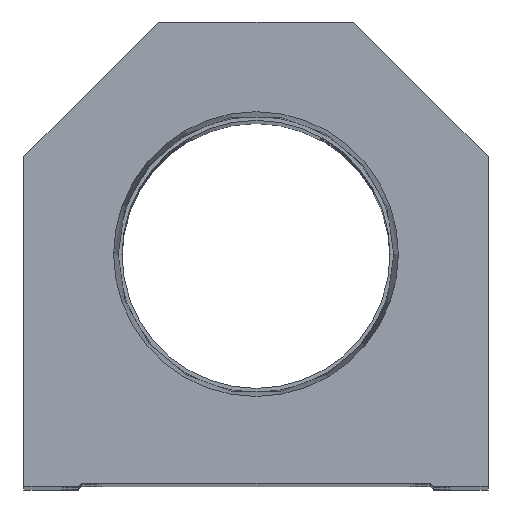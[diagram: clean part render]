
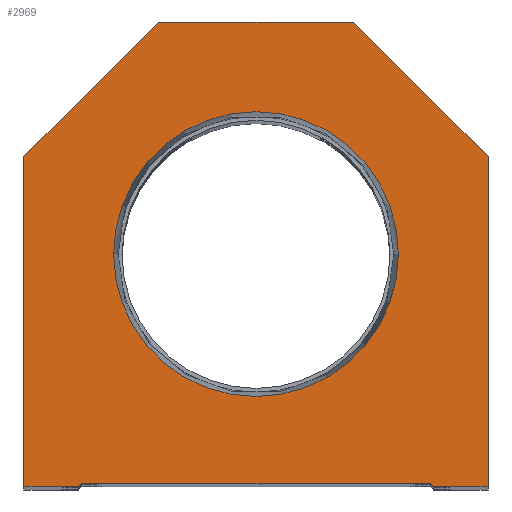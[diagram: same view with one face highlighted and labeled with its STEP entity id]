
A CAD part, top view. The second image highlights one B-rep face of the part: STEP entity #2969.
In plain terms, the highlighted planar face has unit normal (0, 0, 1).
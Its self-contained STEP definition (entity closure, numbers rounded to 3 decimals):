
#30 = LINE ( 'NONE', #10381, #3971 ) ;
#39 = ORIENTED_EDGE ( 'NONE', *, *, #14454, .T. ) ;
#549 = VERTEX_POINT ( 'NONE', #4935 ) ;
#564 = VECTOR ( 'NONE', #16138, 1000. ) ;
#679 = VECTOR ( 'NONE', #19218, 1000. ) ;
#684 = CARTESIAN_POINT ( 'NONE',  ( -14.55, 14.55, 0. ) ) ;
#713 = DIRECTION ( 'NONE',  ( 0., 1., 0. ) ) ;
#734 = AXIS2_PLACEMENT_3D ( 'NONE', #14796, #13259, #19179 ) ;
#1004 = LINE ( 'NONE', #13212, #14033 ) ;
#1402 = CARTESIAN_POINT ( 'NONE',  ( -38.1, 0., 0. ) ) ;
#1514 = VERTEX_POINT ( 'NONE', #9733 ) ;
#1742 = VERTEX_POINT ( 'NONE', #8936 ) ;
#1792 = VERTEX_POINT ( 'NONE', #4339 ) ;
#2098 = VERTEX_POINT ( 'NONE', #17908 ) ;
#2747 = DIRECTION ( 'NONE',  ( 1., 0., 0. ) ) ;
#2968 = CARTESIAN_POINT ( 'NONE',  ( 38.1, 0., 0. ) ) ;
#2969 = ADVANCED_FACE ( 'NONE', ( #18539, #5925 ), #16920, .T. ) ;
#3460 = ORIENTED_EDGE ( 'NONE', *, *, #7909, .T. ) ;
#3571 = CARTESIAN_POINT ( 'NONE',  ( 0., 38.1, 0. ) ) ;
#3606 = EDGE_LOOP ( 'NONE', ( #3460, #39, #9575, #8946, #3985, #8188, #18843, #8030, #16763, #9162 ) ) ;
#3971 = VECTOR ( 'NONE', #10496, 1000. ) ;
#3985 = ORIENTED_EDGE ( 'NONE', *, *, #10931, .T. ) ;
#4339 = CARTESIAN_POINT ( 'NONE',  ( 23.374, 38.1, 0. ) ) ;
#4935 = CARTESIAN_POINT ( 'NONE',  ( -16., 76.2, 0. ) ) ;
#4971 = DIRECTION ( 'NONE',  ( 1., 0., 0. ) ) ;
#4985 = EDGE_CURVE ( 'NONE', #1792, #1742, #12021, .T. ) ;
#5153 = LINE ( 'NONE', #11322, #18429 ) ;
#5289 = CARTESIAN_POINT ( 'NONE',  ( 28.6, 0.5, 0. ) ) ;
#5379 = VERTEX_POINT ( 'NONE', #19522 ) ;
#5666 = CARTESIAN_POINT ( 'NONE',  ( 38.1, 54.1, 0. ) ) ;
#5925 = FACE_OUTER_BOUND ( 'NONE', #3606, .T. ) ;
#5944 = DIRECTION ( 'NONE',  ( -1., 0., 0. ) ) ;
#6492 = EDGE_CURVE ( 'NONE', #16019, #549, #7393, .T. ) ;
#7201 = AXIS2_PLACEMENT_3D ( 'NONE', #3571, #19253, #17845 ) ;
#7255 = EDGE_CURVE ( 'NONE', #1514, #8970, #9829, .T. ) ;
#7393 = LINE ( 'NONE', #11820, #17652 ) ;
#7909 = EDGE_CURVE ( 'NONE', #8970, #2098, #30, .T. ) ;
#8030 = ORIENTED_EDGE ( 'NONE', *, *, #6492, .T. ) ;
#8188 = ORIENTED_EDGE ( 'NONE', *, *, #11920, .T. ) ;
#8702 = EDGE_CURVE ( 'NONE', #11845, #5379, #9734, .T. ) ;
#8936 = CARTESIAN_POINT ( 'NONE',  ( -23.374, 38.1, 0. ) ) ;
#8946 = ORIENTED_EDGE ( 'NONE', *, *, #8702, .T. ) ;
#8970 = VERTEX_POINT ( 'NONE', #1402 ) ;
#9162 = ORIENTED_EDGE ( 'NONE', *, *, #7255, .T. ) ;
#9575 = ORIENTED_EDGE ( 'NONE', *, *, #14345, .T. ) ;
#9733 = CARTESIAN_POINT ( 'NONE',  ( -38.1, 54.1, 0. ) ) ;
#9734 = LINE ( 'NONE', #17715, #19297 ) ;
#9791 = LINE ( 'NONE', #17476, #564 ) ;
#9815 = DIRECTION ( 'NONE',  ( -0.707, -0.707, 0. ) ) ;
#9829 = LINE ( 'NONE', #16078, #18628 ) ;
#9942 = LINE ( 'NONE', #11180, #679 ) ;
#10381 = CARTESIAN_POINT ( 'NONE',  ( -28.6, 0., 0. ) ) ;
#10496 = DIRECTION ( 'NONE',  ( 1., 0., 0. ) ) ;
#10931 = EDGE_CURVE ( 'NONE', #5379, #17417, #9942, .T. ) ;
#11180 = CARTESIAN_POINT ( 'NONE',  ( 28.6, 0., 0. ) ) ;
#11292 = ORIENTED_EDGE ( 'NONE', *, *, #4985, .F. ) ;
#11322 = CARTESIAN_POINT ( 'NONE',  ( -38.1, 54.1, 0. ) ) ;
#11330 = LINE ( 'NONE', #684, #14646 ) ;
#11417 = VERTEX_POINT ( 'NONE', #19433 ) ;
#11820 = CARTESIAN_POINT ( 'NONE',  ( 16., 76.2, 0. ) ) ;
#11845 = VERTEX_POINT ( 'NONE', #5289 ) ;
#11898 = DIRECTION ( 'NONE',  ( 0., 0., 1. ) ) ;
#11920 = EDGE_CURVE ( 'NONE', #17417, #15492, #1004, .T. ) ;
#12004 = EDGE_CURVE ( 'NONE', #1742, #1792, #18297, .T. ) ;
#12021 = CIRCLE ( 'NONE', #7201, 23.374 ) ;
#12522 = EDGE_LOOP ( 'NONE', ( #11292, #13984 ) ) ;
#13212 = CARTESIAN_POINT ( 'NONE',  ( 38.1, 0., 0. ) ) ;
#13259 = DIRECTION ( 'NONE',  ( 0., 0., 1. ) ) ;
#13802 = CARTESIAN_POINT ( 'NONE',  ( 16., 76.2, 0. ) ) ;
#13837 = CARTESIAN_POINT ( 'NONE',  ( 0., 0., 0. ) ) ;
#13984 = ORIENTED_EDGE ( 'NONE', *, *, #12004, .F. ) ;
#14033 = VECTOR ( 'NONE', #713, 1000. ) ;
#14345 = EDGE_CURVE ( 'NONE', #11417, #11845, #15655, .T. ) ;
#14454 = EDGE_CURVE ( 'NONE', #2098, #11417, #11330, .T. ) ;
#14519 = DIRECTION ( 'NONE',  ( 0., -1., 0. ) ) ;
#14646 = VECTOR ( 'NONE', #16074, 1000. ) ;
#14796 = CARTESIAN_POINT ( 'NONE',  ( 0., 38.1, 0. ) ) ;
#15492 = VERTEX_POINT ( 'NONE', #5666 ) ;
#15655 = LINE ( 'NONE', #17206, #18581 ) ;
#15976 = DIRECTION ( 'NONE',  ( 0.707, -0.707, 0. ) ) ;
#16019 = VERTEX_POINT ( 'NONE', #13802 ) ;
#16074 = DIRECTION ( 'NONE',  ( 0.707, 0.707, 0. ) ) ;
#16078 = CARTESIAN_POINT ( 'NONE',  ( -38.1, 0., 0. ) ) ;
#16138 = DIRECTION ( 'NONE',  ( -0.707, 0.707, 0. ) ) ;
#16279 = AXIS2_PLACEMENT_3D ( 'NONE', #13837, #11898, #2747 ) ;
#16763 = ORIENTED_EDGE ( 'NONE', *, *, #19568, .T. ) ;
#16920 = PLANE ( 'NONE',  #16279 ) ;
#17206 = CARTESIAN_POINT ( 'NONE',  ( -28.6, 0.5, 0. ) ) ;
#17417 = VERTEX_POINT ( 'NONE', #2968 ) ;
#17476 = CARTESIAN_POINT ( 'NONE',  ( 38.1, 54.1, 0. ) ) ;
#17652 = VECTOR ( 'NONE', #5944, 1000. ) ;
#17715 = CARTESIAN_POINT ( 'NONE',  ( 14.55, 14.55, 0. ) ) ;
#17845 = DIRECTION ( 'NONE',  ( 1., 0., 0. ) ) ;
#17908 = CARTESIAN_POINT ( 'NONE',  ( -29.1, 0., 0. ) ) ;
#18297 = CIRCLE ( 'NONE', #734, 23.374 ) ;
#18429 = VECTOR ( 'NONE', #9815, 1000. ) ;
#18539 = FACE_BOUND ( 'NONE', #12522, .T. ) ;
#18581 = VECTOR ( 'NONE', #4971, 1000. ) ;
#18628 = VECTOR ( 'NONE', #14519, 1000. ) ;
#18843 = ORIENTED_EDGE ( 'NONE', *, *, #19891, .T. ) ;
#19179 = DIRECTION ( 'NONE',  ( 1., 0., 0. ) ) ;
#19218 = DIRECTION ( 'NONE',  ( 1., 0., 0. ) ) ;
#19253 = DIRECTION ( 'NONE',  ( 0., 0., 1. ) ) ;
#19297 = VECTOR ( 'NONE', #15976, 1000. ) ;
#19433 = CARTESIAN_POINT ( 'NONE',  ( -28.6, 0.5, 0. ) ) ;
#19522 = CARTESIAN_POINT ( 'NONE',  ( 29.1, 0., 0. ) ) ;
#19568 = EDGE_CURVE ( 'NONE', #549, #1514, #5153, .T. ) ;
#19891 = EDGE_CURVE ( 'NONE', #15492, #16019, #9791, .T. ) ;
